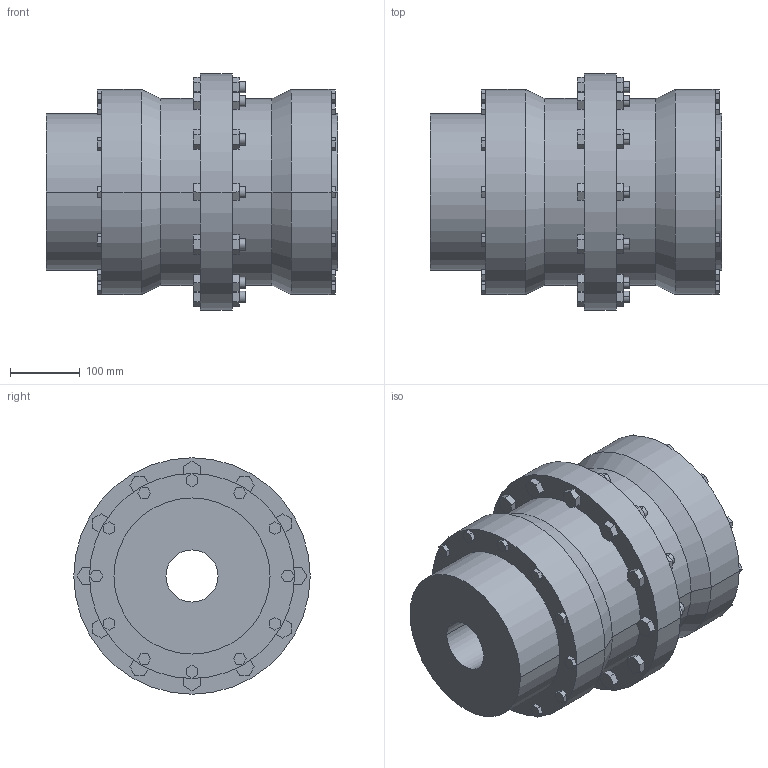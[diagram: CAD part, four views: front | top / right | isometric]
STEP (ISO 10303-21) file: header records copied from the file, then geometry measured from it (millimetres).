
FILE_DESCRIPTION((''),'2;1');
FILE_NAME('A19712100-0_ASM','2019-05-23T',('AB_Roschiwal'),('RENK AG'),'PRO/ENGINEER BY PARAMETRIC TECHNOLOGY CORPORATION, 2015440','PRO/ENGINEER BY PARAMETRIC TECHNOLOGY CORPORATION, 2015440','');
FILE_SCHEMA(('CONFIG_CONTROL_DESIGN'));
Length unit declared in the file: millimetre
Products named in the file (3): SBK140_GEHAEUSE; SBK140_NABE; A19712100-0_ASM
Assembly tree (3 placements, depth 2):
  A19712100-0_ASM
    SBK140_GEHAEUSE
    SBK140_NABE  x2
Bounding box: 420 x 340 x 340 mm (x, y, z)
Volume: 19507267.8 mm3; surface area: 1216338.7 mm2
Topology: 3 solids, 3 shells, 422 faces, 1036 edges, 688 vertices
Faces by surface type: plane 362, cylinder 56, cone 4
Entity records: 12052 total; most frequent: CARTESIAN_POINT 2100, ORIENTED_EDGE 2024, DIRECTION 1940, EDGE_CURVE 1012, VECTOR 916, LINE 916, VERTEX_POINT 672, AXIS2_PLACEMENT_3D 512
